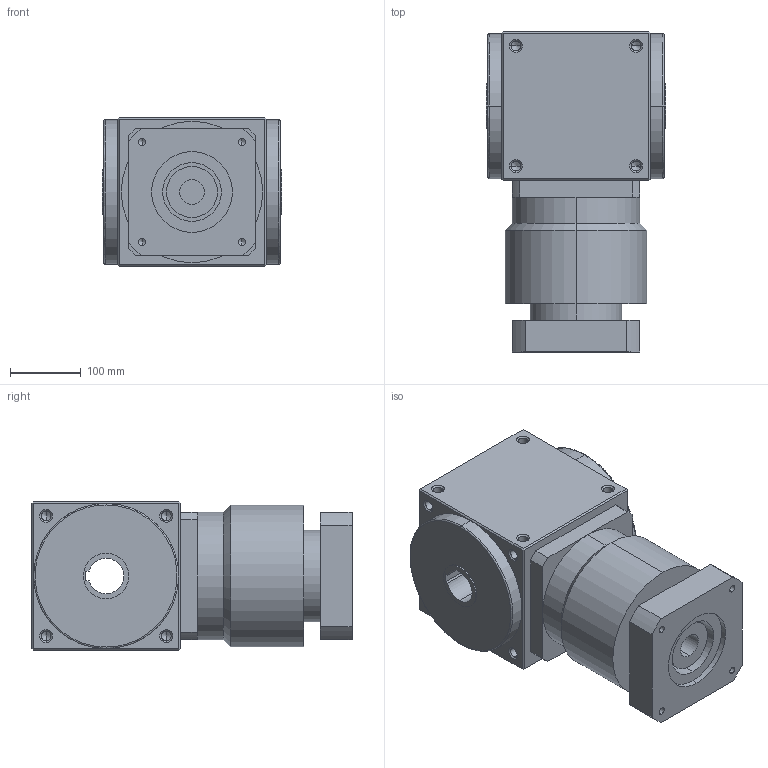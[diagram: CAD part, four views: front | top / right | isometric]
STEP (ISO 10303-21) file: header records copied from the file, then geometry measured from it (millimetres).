
FILE_DESCRIPTION (( 'STEP AP214' ), '1' );
FILE_NAME ('AT210-FH-L2 - 35-114.STEP', '2020-11-21T05:46:42', ( '微软用户' ), ( '微软中国' ), 'SwSTEP 2.0', 'SolidWorks 2014', '' );
FILE_SCHEMA (( 'AUTOMOTIVE_DESIGN' ));
Length unit declared in the file: millimetre
Products named in the file (2): AT210-FH-L2 - 35-114
Bounding box: 254 x 453 x 210 mm (x, y, z)
Volume: 16739030.1 mm3; surface area: 570625.9 mm2
Topology: 1 solids, 1 shells, 267 faces, 668 edges, 366 vertices
Faces by surface type: cylinder 121, cone 90, plane 52, bspline 4
Entity records: 10528 total; most frequent: CARTESIAN_POINT 1663, DIRECTION 1242, ORIENTED_EDGE 1240, EDGE_CURVE 620, AXIS2_PLACEMENT_3D 473, VERTEX_POINT 366, EDGE_LOOP 304, VECTOR 296
